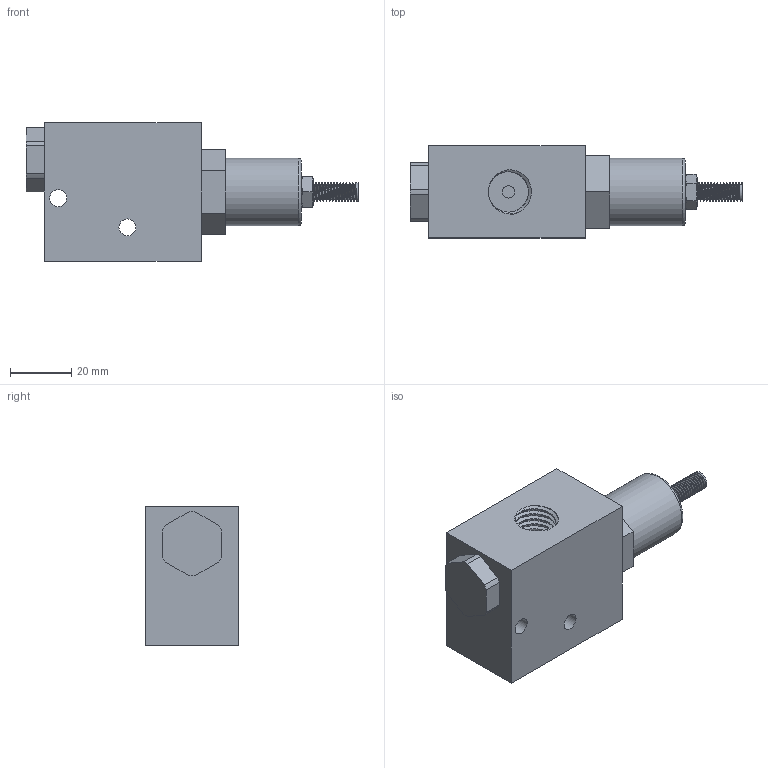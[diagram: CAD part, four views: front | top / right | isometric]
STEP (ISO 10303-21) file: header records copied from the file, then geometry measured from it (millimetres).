
FILE_DESCRIPTION(/* description */ (''),/* implementation_level */ '2;1');
FILE_NAME(/* name */ 'SV-B.stp',/* time_stamp */ '2016-08-18T09:40:20+08:00',/* author */ (''),/* organization */ (''),/* preprocessor_version */ 'ST-DEVELOPER v14',/* originating_system */ 'SIEMENS PLM Software NX 8.0',/* authorisation */ '');
FILE_SCHEMA (('CONFIG_CONTROL_DESIGN'));
Length unit declared in the file: millimetre
Products named in the file (1): SV-B_stp
Bounding box: 108 x 30 x 45 mm (x, y, z)
Volume: 78646.5 mm3; surface area: 19601.2 mm2
Topology: 5 solids, 5 shells, 75 faces, 171 edges, 114 vertices
Faces by surface type: plane 43, cylinder 21, bspline 8, revolution 2, torus 1
Full cylindrical faces by diameter (mm): 4 x2, 5.5 x2, 6 x1, 13.15 x1, 22 x3
Entity records: 8922 total; most frequent: CARTESIAN_POINT 7271, ORIENTED_EDGE 312, DIRECTION 287, EDGE_CURVE 156, VERTEX_POINT 111, AXIS2_PLACEMENT_3D 108, EDGE_LOOP 101, ADVANCED_FACE 75
